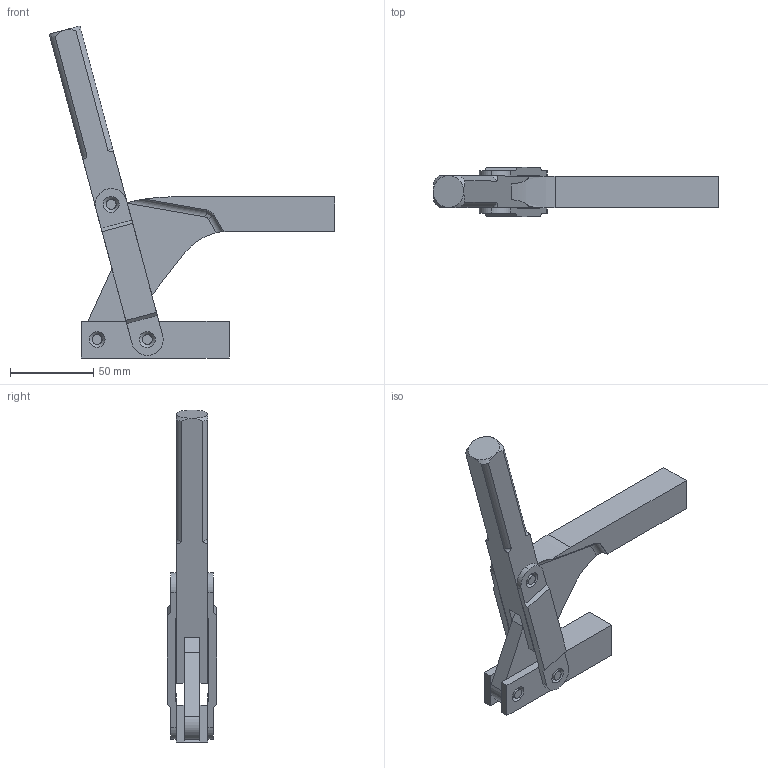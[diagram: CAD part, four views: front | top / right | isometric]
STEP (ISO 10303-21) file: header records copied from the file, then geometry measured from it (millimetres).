
FILE_DESCRIPTION(/* description */ (''),/* implementation_level */ '2;1');
FILE_NAME(/* name */ 'c110',/* time_stamp */ '2002-05-29T12:01:06-05:00',/* author */ (''),/* organization */ (''),/* preprocessor_version */ 'ST-DEVELOPER v8',/* originating_system */ 'UNIGRAPHICS SOLUTIONS - UNIGRAPHICS 18.0',/* authorisation */ '');
FILE_SCHEMA (('CONFIG_CONTROL_DESIGN'));
Length unit declared in the file: inch
Products named in the file (1): guesCE810026
Bounding box: 171.65 x 29.59 x 199.61 mm (x, y, z)
Volume: 157780.5 mm3; surface area: 49637.8 mm2
Topology: 10 solids, 10 shells, 129 faces, 312 edges, 203 vertices
Faces by surface type: plane 73, cylinder 38, cone 12, torus 4, bspline 2
Full cylindrical faces by diameter (mm): 5.867 x5, 6.375 x8, 9.474 x4
Entity records: 3842 total; most frequent: CARTESIAN_POINT 774, DIRECTION 608, ORIENTED_EDGE 572, EDGE_CURVE 286, AXIS2_PLACEMENT_3D 216, VERTEX_POINT 202, EDGE_LOOP 178, LINE 176
